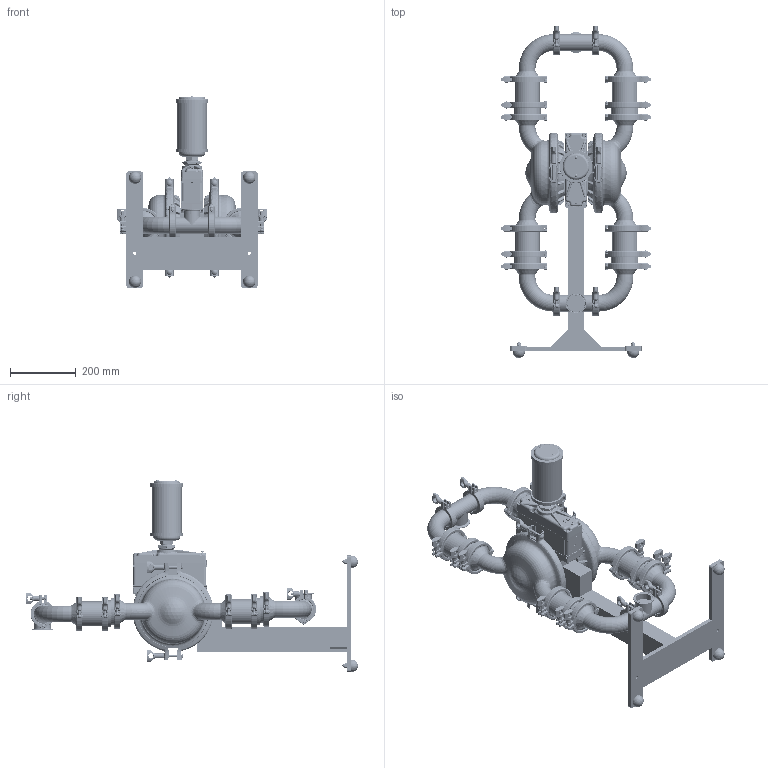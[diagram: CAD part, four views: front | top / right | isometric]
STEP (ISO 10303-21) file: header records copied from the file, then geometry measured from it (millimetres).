
FILE_DESCRIPTION (( 'STEP AP203' ), '1' );
FILE_NAME ('ps8_ss_saniflo_hs_flap_fixed.STEP', '2022-06-23T07:54:20', ( '' ), ( '' ), 'SwSTEP 2.0', 'SolidWorks 2019', '' );
FILE_SCHEMA (( 'CONFIG_CONTROL_DESIGN' ));
Products named in the file (1): ps8_ss_saniflo_hs_flap_fixed
Bounding box: 460.1 x 1013.28 x 585.78 mm (x, y, z)
Volume: 20056254.3 mm3; surface area: 1669177.2 mm2
Topology: 1 solids, 1 shells, 11672 faces, 29532 edges, 17877 vertices
Faces by surface type: plane 4137, cylinder 2614, bspline 2178, torus 1689, cone 650, sphere 404
Entity records: 658767 total; most frequent: CARTESIAN_POINT 395683, ORIENTED_EDGE 58472, DIRECTION 50834, EDGE_CURVE 29236, AXIS2_PLACEMENT_3D 18853, VERTEX_POINT 17805, LINE 13128, VECTOR 13128
